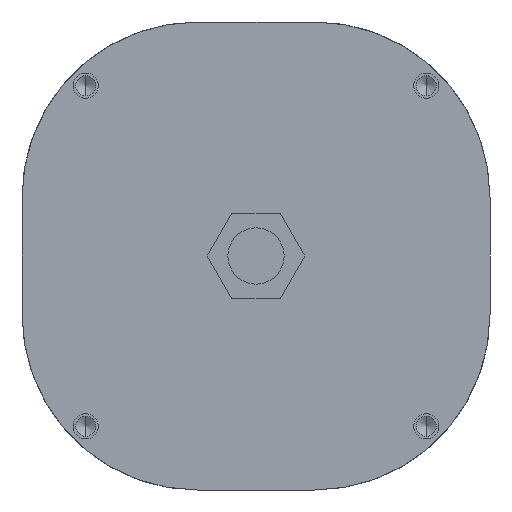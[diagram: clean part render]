
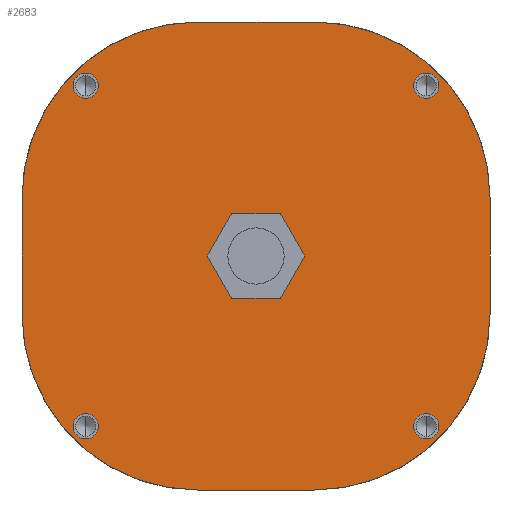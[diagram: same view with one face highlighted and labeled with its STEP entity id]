
A CAD part, front view. The second image highlights one B-rep face of the part: STEP entity #2683.
In plain terms, the highlighted planar face has unit normal (0, -1, 0).
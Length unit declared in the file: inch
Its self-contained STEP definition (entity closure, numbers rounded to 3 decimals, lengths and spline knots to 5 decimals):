
#26 = DIRECTION ( 'NONE',  ( 0., 1., 0. ) ) ;
#41 = VERTEX_POINT ( 'NONE', #2816 ) ;
#61 = DIRECTION ( 'NONE',  ( 0., 0., 1. ) ) ;
#101 = EDGE_CURVE ( 'NONE', #2142, #3124, #938, .T. ) ;
#134 = EDGE_CURVE ( 'NONE', #246, #2546, #2359, .T. ) ;
#170 = EDGE_CURVE ( 'NONE', #2309, #1050, #978, .T. ) ;
#181 = CARTESIAN_POINT ( 'NONE',  ( -0.78, 0., -2.078 ) ) ;
#183 = DIRECTION ( 'NONE',  ( 0., -1., 0. ) ) ;
#240 = CARTESIAN_POINT ( 'NONE',  ( 0., 0., -1.298 ) ) ;
#246 = VERTEX_POINT ( 'NONE', #2646 ) ;
#249 = CARTESIAN_POINT ( 'NONE',  ( -1.795, 0., -1.739 ) ) ;
#269 = EDGE_LOOP ( 'NONE', ( #1806, #2661 ) ) ;
#274 = AXIS2_PLACEMENT_3D ( 'NONE', #317, #26, #2590 ) ;
#275 = CARTESIAN_POINT ( 'NONE',  ( -1.298, 0., -2.078 ) ) ;
#311 = ORIENTED_EDGE ( 'NONE', *, *, #1133, .F. ) ;
#317 = CARTESIAN_POINT ( 'NONE',  ( -1.298, 0., -1.298 ) ) ;
#324 = DIRECTION ( 'NONE',  ( 0., -1., 0. ) ) ;
#342 = CARTESIAN_POINT ( 'NONE',  ( -1.298, 0., 0. ) ) ;
#343 = CARTESIAN_POINT ( 'NONE',  ( -0.283, 0., -0.283 ) ) ;
#376 = AXIS2_PLACEMENT_3D ( 'NONE', #1418, #2662, #2181 ) ;
#422 = EDGE_CURVE ( 'NONE', #646, #552, #1127, .T. ) ;
#439 = DIRECTION ( 'NONE',  ( 0., 0., -1. ) ) ;
#453 = FACE_BOUND ( 'NONE', #2767, .T. ) ;
#456 = CARTESIAN_POINT ( 'NONE',  ( -0.283, 0., -0.227 ) ) ;
#472 = EDGE_CURVE ( 'NONE', #3006, #1241, #1439, .T. ) ;
#506 = AXIS2_PLACEMENT_3D ( 'NONE', #1844, #324, #620 ) ;
#552 = VERTEX_POINT ( 'NONE', #3178 ) ;
#558 = FACE_OUTER_BOUND ( 'NONE', #2367, .T. ) ;
#570 = DIRECTION ( 'NONE',  ( 1., 0., 0. ) ) ;
#615 = AXIS2_PLACEMENT_3D ( 'NONE', #2000, #1981, #745 ) ;
#620 = DIRECTION ( 'NONE',  ( 0., 0., -1. ) ) ;
#637 = FACE_BOUND ( 'NONE', #2538, .T. ) ;
#646 = VERTEX_POINT ( 'NONE', #909 ) ;
#708 = CARTESIAN_POINT ( 'NONE',  ( -1.795, 0., -0.283 ) ) ;
#719 = CIRCLE ( 'NONE', #615, 0.056 ) ;
#731 = EDGE_CURVE ( 'NONE', #2218, #246, #1583, .T. ) ;
#745 = DIRECTION ( 'NONE',  ( 0., 0., -1. ) ) ;
#786 = FACE_BOUND ( 'NONE', #1169, .T. ) ;
#805 = EDGE_CURVE ( 'NONE', #1241, #3006, #1825, .T. ) ;
#843 = CARTESIAN_POINT ( 'NONE',  ( -1.298, 0., -0.78 ) ) ;
#875 = FACE_BOUND ( 'NONE', #269, .T. ) ;
#880 = CIRCLE ( 'NONE', #1829, 0.78 ) ;
#909 = CARTESIAN_POINT ( 'NONE',  ( -0.283, 0., -1.739 ) ) ;
#938 = LINE ( 'NONE', #275, #3029 ) ;
#964 = CARTESIAN_POINT ( 'NONE',  ( -1.795, 0., -0.227 ) ) ;
#965 = DIRECTION ( 'NONE',  ( 0., 0., -1. ) ) ;
#978 = CIRCLE ( 'NONE', #2365, 0.056 ) ;
#1043 = CARTESIAN_POINT ( 'NONE',  ( -1.298, 0., -1.298 ) ) ;
#1049 = CARTESIAN_POINT ( 'NONE',  ( -1.298, 0., 0. ) ) ;
#1050 = VERTEX_POINT ( 'NONE', #2935 ) ;
#1054 = DIRECTION ( 'NONE',  ( 0., 0., -1. ) ) ;
#1065 = DIRECTION ( 'NONE',  ( 0., 0., -1. ) ) ;
#1127 = CIRCLE ( 'NONE', #2539, 0.056 ) ;
#1133 = EDGE_CURVE ( 'NONE', #2228, #2759, #3269, .T. ) ;
#1169 = EDGE_LOOP ( 'NONE', ( #1652, #311 ) ) ;
#1183 = VECTOR ( 'NONE', #2834, 39.37008 ) ;
#1215 = DIRECTION ( 'NONE',  ( 0., 0., -1. ) ) ;
#1241 = VERTEX_POINT ( 'NONE', #249 ) ;
#1341 = CARTESIAN_POINT ( 'NONE',  ( -1.795, 0., -1.851 ) ) ;
#1364 = VERTEX_POINT ( 'NONE', #342 ) ;
#1382 = AXIS2_PLACEMENT_3D ( 'NONE', #3234, #183, #1215 ) ;
#1418 = CARTESIAN_POINT ( 'NONE',  ( -1.795, 0., -1.795 ) ) ;
#1439 = CIRCLE ( 'NONE', #376, 0.056 ) ;
#1470 = ORIENTED_EDGE ( 'NONE', *, *, #2699, .F. ) ;
#1519 = DIRECTION ( 'NONE',  ( 0., 0., -1. ) ) ;
#1525 = DIRECTION ( 'NONE',  ( 0., 1., 0. ) ) ;
#1583 = CIRCLE ( 'NONE', #2861, 0.78 ) ;
#1589 = CIRCLE ( 'NONE', #2001, 0.78 ) ;
#1624 = EDGE_CURVE ( 'NONE', #1050, #2309, #719, .T. ) ;
#1652 = ORIENTED_EDGE ( 'NONE', *, *, #2233, .F. ) ;
#1657 = LINE ( 'NONE', #1049, #1858 ) ;
#1658 = ORIENTED_EDGE ( 'NONE', *, *, #3165, .F. ) ;
#1703 = ORIENTED_EDGE ( 'NONE', *, *, #422, .F. ) ;
#1739 = VECTOR ( 'NONE', #61, 39.37008 ) ;
#1748 = EDGE_CURVE ( 'NONE', #2546, #2142, #880, .T. ) ;
#1806 = ORIENTED_EDGE ( 'NONE', *, *, #1624, .F. ) ;
#1825 = CIRCLE ( 'NONE', #1382, 0.056 ) ;
#1829 = AXIS2_PLACEMENT_3D ( 'NONE', #2076, #1525, #1065 ) ;
#1844 = CARTESIAN_POINT ( 'NONE',  ( -0.283, 0., -1.795 ) ) ;
#1858 = VECTOR ( 'NONE', #570, 39.37008 ) ;
#1860 = EDGE_CURVE ( 'NONE', #3124, #41, #1589, .T. ) ;
#1867 = ORIENTED_EDGE ( 'NONE', *, *, #805, .F. ) ;
#1889 = DIRECTION ( 'NONE',  ( 0., 1., 0. ) ) ;
#1932 = ORIENTED_EDGE ( 'NONE', *, *, #1860, .F. ) ;
#1934 = CARTESIAN_POINT ( 'NONE',  ( -0.78, 0., -0.78 ) ) ;
#1963 = AXIS2_PLACEMENT_3D ( 'NONE', #708, #2464, #2477 ) ;
#1981 = DIRECTION ( 'NONE',  ( 0., -1., 0. ) ) ;
#2000 = CARTESIAN_POINT ( 'NONE',  ( -0.283, 0., -0.283 ) ) ;
#2001 = AXIS2_PLACEMENT_3D ( 'NONE', #1043, #2801, #1054 ) ;
#2076 = CARTESIAN_POINT ( 'NONE',  ( -0.78, 0., -1.298 ) ) ;
#2089 = ORIENTED_EDGE ( 'NONE', *, *, #3042, .F. ) ;
#2118 = AXIS2_PLACEMENT_3D ( 'NONE', #843, #1889, #439 ) ;
#2142 = VERTEX_POINT ( 'NONE', #181 ) ;
#2181 = DIRECTION ( 'NONE',  ( 0., 0., -1. ) ) ;
#2218 = VERTEX_POINT ( 'NONE', #2979 ) ;
#2228 = VERTEX_POINT ( 'NONE', #964 ) ;
#2233 = EDGE_CURVE ( 'NONE', #2759, #2228, #3240, .T. ) ;
#2255 = CIRCLE ( 'NONE', #506, 0.056 ) ;
#2287 = CARTESIAN_POINT ( 'NONE',  ( -0.283, 0., -1.795 ) ) ;
#2309 = VERTEX_POINT ( 'NONE', #456 ) ;
#2335 = CARTESIAN_POINT ( 'NONE',  ( -1.795, 0., -0.339 ) ) ;
#2342 = AXIS2_PLACEMENT_3D ( 'NONE', #2478, #2737, #965 ) ;
#2343 = ORIENTED_EDGE ( 'NONE', *, *, #101, .F. ) ;
#2354 = DIRECTION ( 'NONE',  ( 0., 0., -1. ) ) ;
#2359 = LINE ( 'NONE', #3130, #1183 ) ;
#2365 = AXIS2_PLACEMENT_3D ( 'NONE', #343, #2850, #2354 ) ;
#2367 = EDGE_LOOP ( 'NONE', ( #2343, #2437, #2580, #2474, #1470, #1658, #2089, #1932 ) ) ;
#2417 = CIRCLE ( 'NONE', #2118, 0.78 ) ;
#2430 = DIRECTION ( 'NONE',  ( 0., 0., -1. ) ) ;
#2437 = ORIENTED_EDGE ( 'NONE', *, *, #1748, .F. ) ;
#2455 = VERTEX_POINT ( 'NONE', #2918 ) ;
#2464 = DIRECTION ( 'NONE',  ( 0., -1., 0. ) ) ;
#2474 = ORIENTED_EDGE ( 'NONE', *, *, #731, .F. ) ;
#2477 = DIRECTION ( 'NONE',  ( 0., 0., -1. ) ) ;
#2478 = CARTESIAN_POINT ( 'NONE',  ( -1.795, 0., -0.283 ) ) ;
#2538 = EDGE_LOOP ( 'NONE', ( #2807, #1867 ) ) ;
#2539 = AXIS2_PLACEMENT_3D ( 'NONE', #2287, #2549, #1519 ) ;
#2546 = VERTEX_POINT ( 'NONE', #240 ) ;
#2549 = DIRECTION ( 'NONE',  ( 0., -1., 0. ) ) ;
#2580 = ORIENTED_EDGE ( 'NONE', *, *, #134, .F. ) ;
#2590 = DIRECTION ( 'NONE',  ( 0., 0., 1. ) ) ;
#2623 = ORIENTED_EDGE ( 'NONE', *, *, #3099, .F. ) ;
#2646 = CARTESIAN_POINT ( 'NONE',  ( 0., 0., -0.78 ) ) ;
#2661 = ORIENTED_EDGE ( 'NONE', *, *, #170, .F. ) ;
#2662 = DIRECTION ( 'NONE',  ( 0., -1., 0. ) ) ;
#2683 = ADVANCED_FACE ( 'NONE', ( #637, #453, #786, #875, #558 ), #2817, .F. ) ;
#2699 = EDGE_CURVE ( 'NONE', #1364, #2218, #1657, .T. ) ;
#2737 = DIRECTION ( 'NONE',  ( 0., -1., 0. ) ) ;
#2759 = VERTEX_POINT ( 'NONE', #2335 ) ;
#2767 = EDGE_LOOP ( 'NONE', ( #2623, #1703 ) ) ;
#2801 = DIRECTION ( 'NONE',  ( 0., 1., 0. ) ) ;
#2807 = ORIENTED_EDGE ( 'NONE', *, *, #472, .F. ) ;
#2816 = CARTESIAN_POINT ( 'NONE',  ( -2.078, 0., -1.298 ) ) ;
#2817 = PLANE ( 'NONE',  #274 ) ;
#2834 = DIRECTION ( 'NONE',  ( 0., 0., -1. ) ) ;
#2850 = DIRECTION ( 'NONE',  ( 0., -1., 0. ) ) ;
#2859 = CARTESIAN_POINT ( 'NONE',  ( -2.078, 0., -1.298 ) ) ;
#2861 = AXIS2_PLACEMENT_3D ( 'NONE', #1934, #2902, #2430 ) ;
#2902 = DIRECTION ( 'NONE',  ( 0., 1., 0. ) ) ;
#2918 = CARTESIAN_POINT ( 'NONE',  ( -2.078, 0., -0.78 ) ) ;
#2935 = CARTESIAN_POINT ( 'NONE',  ( -0.283, 0., -0.339 ) ) ;
#2979 = CARTESIAN_POINT ( 'NONE',  ( -0.78, 0., 0. ) ) ;
#3006 = VERTEX_POINT ( 'NONE', #1341 ) ;
#3029 = VECTOR ( 'NONE', #3053, 39.37008 ) ;
#3042 = EDGE_CURVE ( 'NONE', #41, #2455, #3287, .T. ) ;
#3053 = DIRECTION ( 'NONE',  ( -1., 0., 0. ) ) ;
#3099 = EDGE_CURVE ( 'NONE', #552, #646, #2255, .T. ) ;
#3124 = VERTEX_POINT ( 'NONE', #3151 ) ;
#3130 = CARTESIAN_POINT ( 'NONE',  ( 0., 0., -1.298 ) ) ;
#3151 = CARTESIAN_POINT ( 'NONE',  ( -1.298, 0., -2.078 ) ) ;
#3165 = EDGE_CURVE ( 'NONE', #2455, #1364, #2417, .T. ) ;
#3178 = CARTESIAN_POINT ( 'NONE',  ( -0.283, 0., -1.851 ) ) ;
#3234 = CARTESIAN_POINT ( 'NONE',  ( -1.795, 0., -1.795 ) ) ;
#3240 = CIRCLE ( 'NONE', #1963, 0.056 ) ;
#3269 = CIRCLE ( 'NONE', #2342, 0.056 ) ;
#3287 = LINE ( 'NONE', #2859, #1739 ) ;
